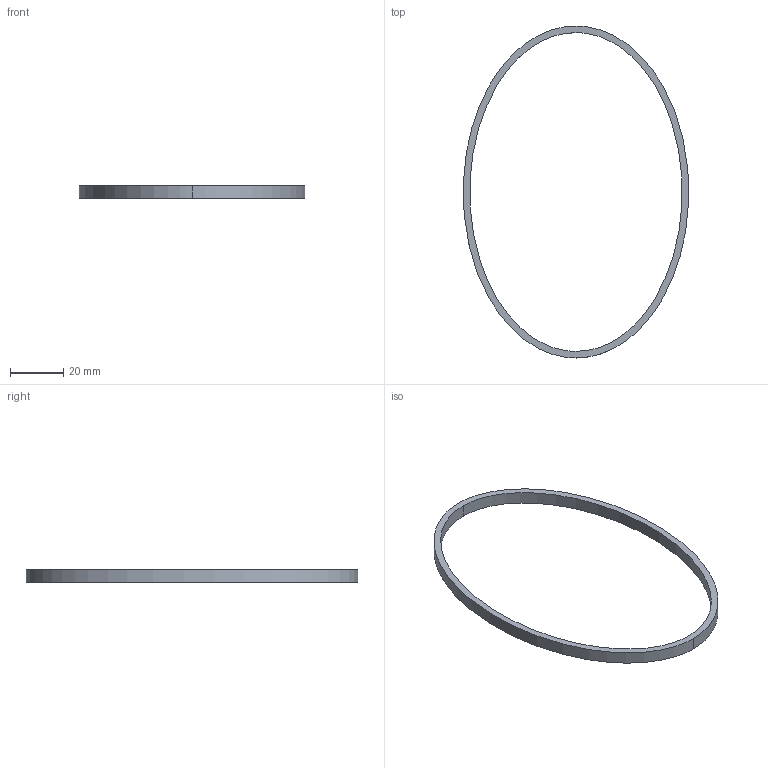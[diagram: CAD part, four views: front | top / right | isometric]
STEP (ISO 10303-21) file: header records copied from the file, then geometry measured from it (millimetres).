
FILE_DESCRIPTION (( 'STEP AP214' ), '1' );
FILE_NAME ('Latex Cutting Template.STEP', '2021-05-07T20:42:43', ( '' ), ( '' ), 'SwSTEP 2.0', 'SolidWorks 2020', '' );
FILE_SCHEMA (( 'AUTOMOTIVE_DESIGN' ));
Length unit declared in the file: millimetre
Products named in the file (1): Latex Cutting Template
Bounding box: 84.89 x 125 x 4.76 mm (x, y, z)
Volume: 3874.2 mm3; surface area: 4724.8 mm2
Topology: 1 solids, 1 shells, 6 faces, 12 edges, 8 vertices
Faces by surface type: bspline 4, plane 2
Entity records: 284 total; most frequent: CARTESIAN_POINT 151, ORIENTED_EDGE 24, EDGE_CURVE 12, DIRECTION 10, VERTEX_POINT 8, EDGE_LOOP 8, FACE_OUTER_BOUND 6, ADVANCED_FACE 6
